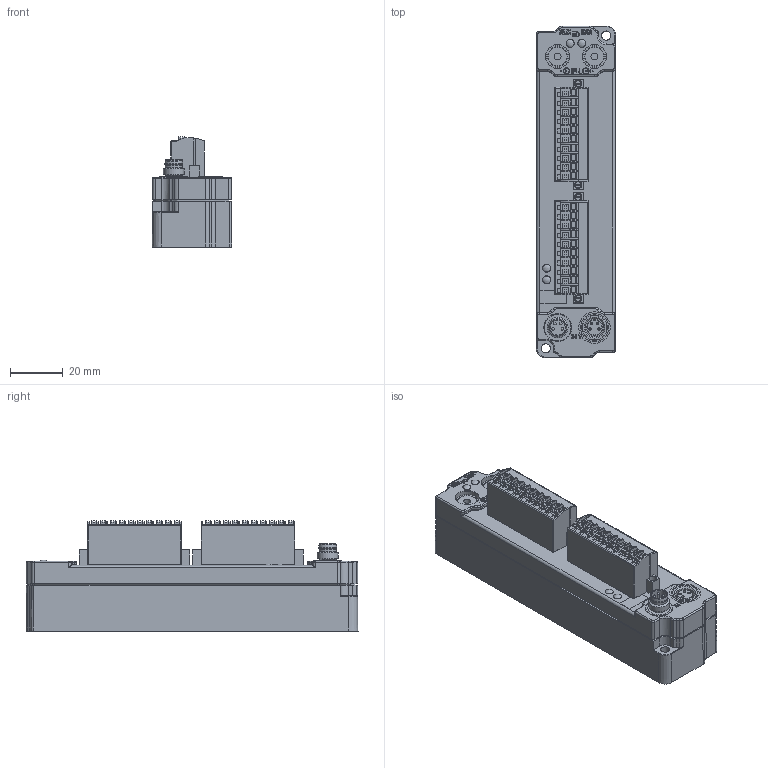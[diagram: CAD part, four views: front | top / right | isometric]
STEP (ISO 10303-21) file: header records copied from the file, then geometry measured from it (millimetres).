
FILE_DESCRIPTION((''),'2;1');
FILE_NAME('C:\TurckZip\SNNE-0808D-0003.stp','2008-08-26T11:03:34',('IKOROL'),(''),'Autodesk Inventor 2008','Autodesk Inventor 2008','');
FILE_SCHEMA(('CONFIG_CONTROL_DESIGN'));
Length unit declared in the file: millimetre
Products named in the file (1): Part2
Bounding box: 30.3 x 126.31 x 41.9 mm (x, y, z)
Volume: 92682.1 mm3; surface area: 32239.8 mm2
Topology: 1 solids, 8 shells, 1747 faces, 4611 edges, 3026 vertices
Faces by surface type: plane 1315, cylinder 261, bspline 83, cone 47, torus 33, sphere 8
Full cylindrical faces by diameter (mm): 1 x8, 1.4 x12, 1.5 x4, 1.6 x4, 2.1 x4, 2.6 x2, 2.8 x4, 2.9 x8, 3 x4, 3.05 x13, 3.5 x2, 5.7 x3, 6.031 x1, 6.3 x1, 6.4 x2, 6.45 x1, 6.799 x1, 6.95 x1, 7.2 x2, 7.5 x2, 7.9 x1, 8.6 x2, 8.7 x2, 9 x4, 10 x1, 10.1 x1, 10.2 x1, 10.6 x1, 12 x1
Entity records: 55787 total; most frequent: CARTESIAN_POINT 11342, ORIENTED_EDGE 8816, DIRECTION 8362, EDGE_CURVE 4408, VECTOR 3528, LINE 3528, VERTEX_POINT 2977, AXIS2_PLACEMENT_3D 2417
